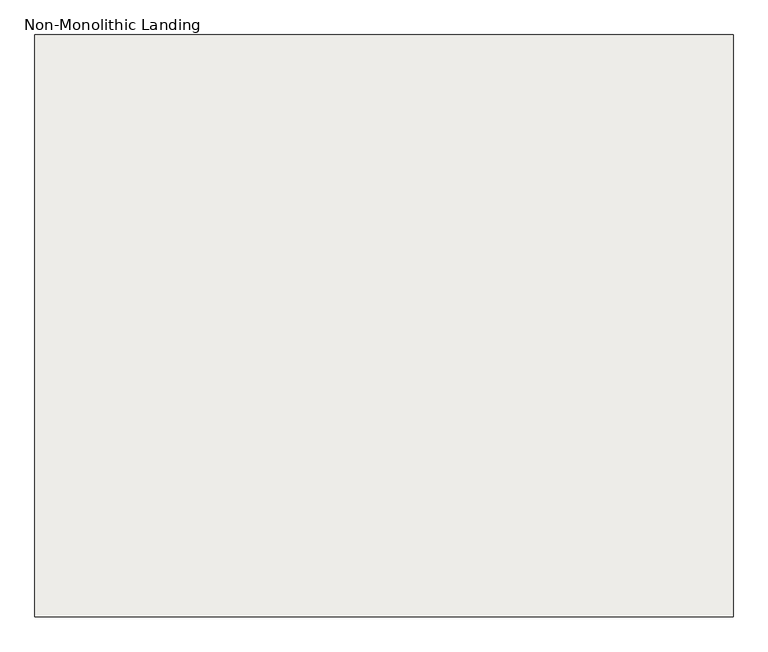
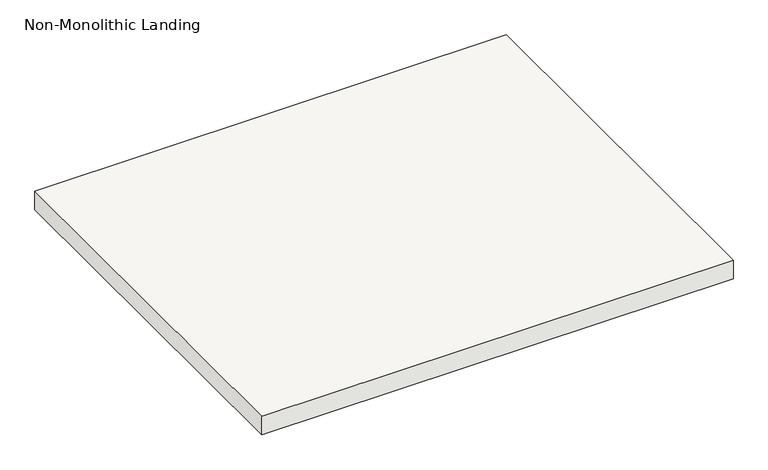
"""IFC4 building model written with IfcOpenShell, lengths in millimetres: slab geometry, Non-Monolithic Landing."""

from ifc_helpers import new_model, si_unit, frame, origin, place, context, project, spatial, polyline, outline, extrude, source, transform, mapped, element, save


def non_monolithic_landing_6ace3499(model_context):
    return source(origin(), model_context, "Body", "SweptSolid", [
        extrude(outline(polyline([(-107328.9945013, 12172.4703498), (-108528.9400112, 12172.4703498), (-108528.9400112, 13172.4703498), (-107328.9945013, 13172.4703498), (-107328.9945013, 12172.4703498)])), frame((0.0, 0.0, 45620.0), z_axis=(0.0, 0.0, 1.0), x_axis=(1.0, 0.0, 0.0)), (0.0, 0.0, 1.0), 50.0),
    ])


if __name__ == "__main__":
    model = new_model("IFC4")
    model_context = context("Model", 3, world=origin())
    ifc_project = project(units=[si_unit("LENGTHUNIT", "METRE", prefix="MILLI")], contexts=[model_context])
    site = spatial("IfcSite", under=ifc_project)
    building = spatial("IfcBuilding", under=site)
    placement = place(None, origin())
    non_monolithic_landing_shape = non_monolithic_landing_6ace3499(model_context)
    element("IfcSlab", 1, ObjectType="Non-Monolithic Landing", at=placement, inside=building, context=model_context, shape_type="MappedRepresentation", body=[
        mapped(non_monolithic_landing_shape, transform((0.0, 0.0, 0.0), x_axis=(1.0, 0.0, 0.0), y_axis=(0.0, 1.0, 0.0), z_axis=(0.0, 0.0, 1.0))),
    ])
    save(model, "model.ifc")
